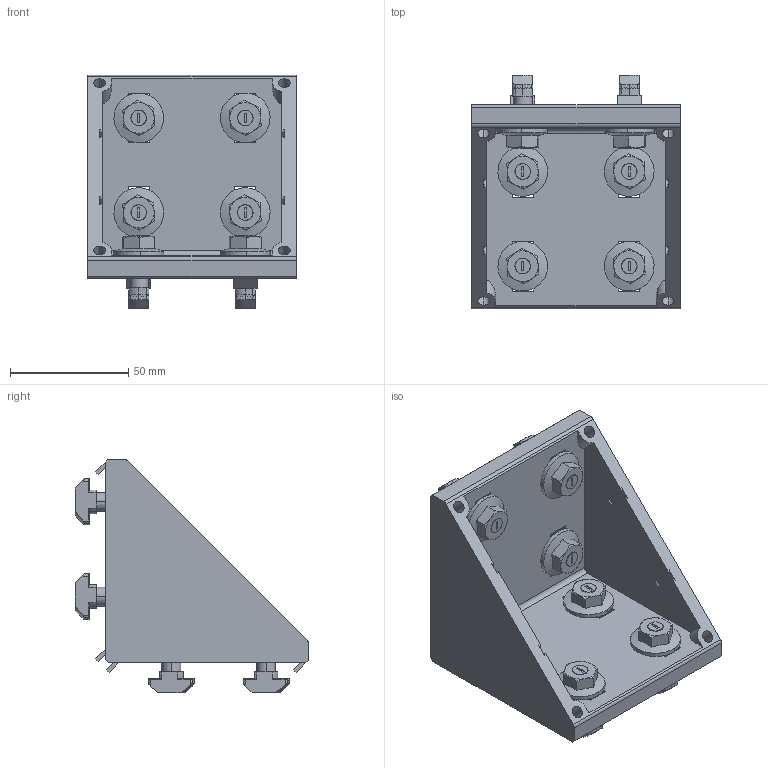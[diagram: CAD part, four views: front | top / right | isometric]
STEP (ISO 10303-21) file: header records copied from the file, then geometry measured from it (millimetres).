
FILE_DESCRIPTION (( 'STEP AP203' ), '1' );
FILE_NAME ('01100W9090ZNSZ.STEP', '2024-03-12T12:52:00', ( 'Windows-Benutzer' ), ( '' ), 'SwSTEP 2.0', 'SolidWorks 2023', '' );
FILE_SCHEMA (( 'CONFIG_CONTROL_DESIGN' ));
Length unit declared in the file: millimetre
Products named in the file (1): 01100W9090ZNSZ
Bounding box: 88 x 98.6 x 98.6 mm (x, y, z)
Volume: 150927.7 mm3; surface area: 71917.2 mm2
Topology: 17 solids, 17 shells, 949 faces, 2556 edges, 1672 vertices
Faces by surface type: plane 566, cylinder 287, cone 72, bspline 24
Entity records: 32017 total; most frequent: CARTESIAN_POINT 9670, ORIENTED_EDGE 5112, DIRECTION 4046, EDGE_CURVE 2556, VERTEX_POINT 1672, LINE 1454, VECTOR 1454, AXIS2_PLACEMENT_3D 1296
